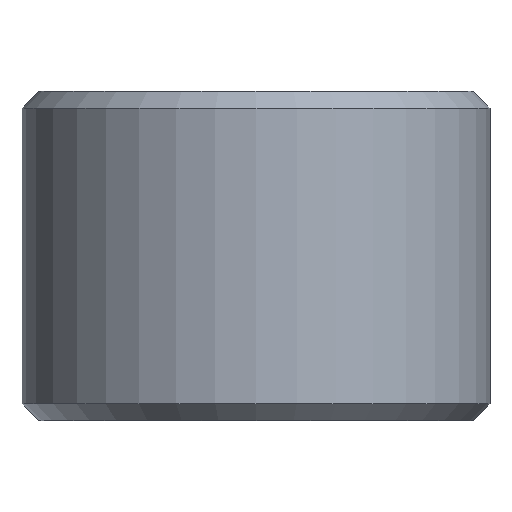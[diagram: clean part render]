
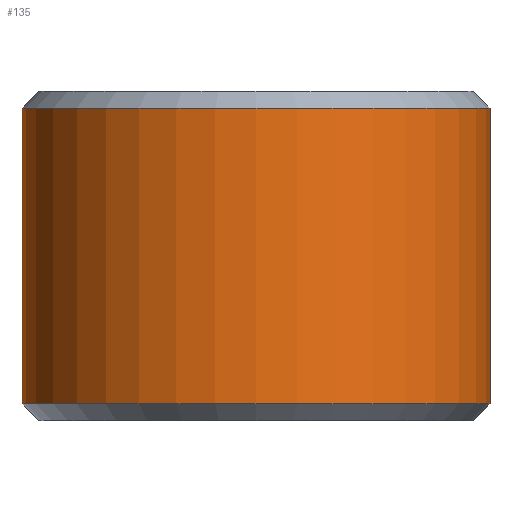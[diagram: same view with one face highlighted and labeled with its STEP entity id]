
A CAD part, front view. The second image highlights one B-rep face of the part: STEP entity #135.
In plain terms, the highlighted cylindrical face has radius 7 mm (diameter 14 mm), a full revolution.
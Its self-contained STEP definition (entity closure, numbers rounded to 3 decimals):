
#15=CYLINDRICAL_SURFACE('',#172,7.);
#24=FACE_OUTER_BOUND('',#33,.T.);
#33=EDGE_LOOP('',(#101,#102,#103,#104,#105,#106));
#41=LINE('',#249,#47);
#47=VECTOR('',#211,7.);
#54=CIRCLE('',#170,7.);
#55=CIRCLE('',#171,7.);
#56=CIRCLE('',#173,7.);
#57=CIRCLE('',#174,7.);
#64=VERTEX_POINT('',#239);
#65=VERTEX_POINT('',#241);
#66=VERTEX_POINT('',#245);
#67=VERTEX_POINT('',#246);
#77=EDGE_CURVE('',#64,#65,#54,.T.);
#78=EDGE_CURVE('',#65,#64,#55,.T.);
#79=EDGE_CURVE('',#66,#67,#56,.T.);
#80=EDGE_CURVE('',#67,#66,#57,.T.);
#81=EDGE_CURVE('',#67,#65,#41,.T.);
#101=ORIENTED_EDGE('',*,*,#79,.F.);
#102=ORIENTED_EDGE('',*,*,#80,.F.);
#103=ORIENTED_EDGE('',*,*,#81,.T.);
#104=ORIENTED_EDGE('',*,*,#77,.F.);
#105=ORIENTED_EDGE('',*,*,#78,.F.);
#106=ORIENTED_EDGE('',*,*,#81,.F.);
#135=ADVANCED_FACE('',(#24),#15,.T.);
#170=AXIS2_PLACEMENT_3D('',#242,#201,#202);
#171=AXIS2_PLACEMENT_3D('',#243,#203,#204);
#172=AXIS2_PLACEMENT_3D('',#244,#205,#206);
#173=AXIS2_PLACEMENT_3D('',#247,#207,#208);
#174=AXIS2_PLACEMENT_3D('',#248,#209,#210);
#201=DIRECTION('center_axis',(0.,0.,-1.));
#202=DIRECTION('ref_axis',(-1.,0.,0.));
#203=DIRECTION('center_axis',(0.,0.,-1.));
#204=DIRECTION('ref_axis',(-1.,0.,0.));
#205=DIRECTION('center_axis',(0.,0.,1.));
#206=DIRECTION('ref_axis',(1.,0.,0.));
#207=DIRECTION('center_axis',(0.,0.,1.));
#208=DIRECTION('ref_axis',(-1.,0.,0.));
#209=DIRECTION('center_axis',(0.,0.,1.));
#210=DIRECTION('ref_axis',(-1.,0.,0.));
#211=DIRECTION('',(0.,0.,-1.));
#239=CARTESIAN_POINT('',(7.,-6.,-4.425));
#241=CARTESIAN_POINT('',(-7.,-6.,-4.425));
#242=CARTESIAN_POINT('Origin',(0.,-6.,
-4.425));
#243=CARTESIAN_POINT('Origin',(0.,-6.,
-4.425));
#244=CARTESIAN_POINT('Origin',(0.,-6.,
0.));
#245=CARTESIAN_POINT('',(7.,-6.,4.425));
#246=CARTESIAN_POINT('',(-7.,-6.,4.425));
#247=CARTESIAN_POINT('Origin',(0.,-6.,
4.425));
#248=CARTESIAN_POINT('Origin',(0.,-6.,
4.425));
#249=CARTESIAN_POINT('',(-7.,-6.,0.));
